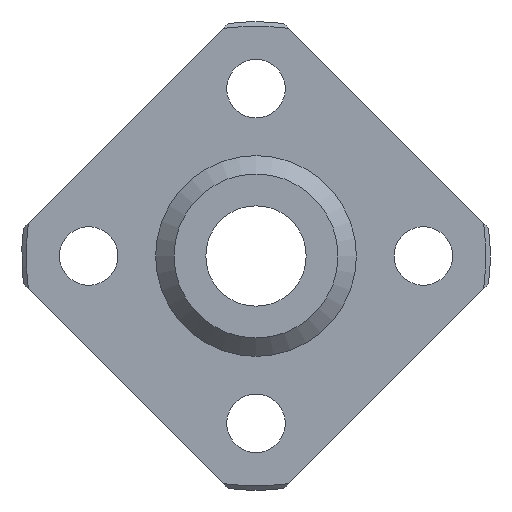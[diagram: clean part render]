
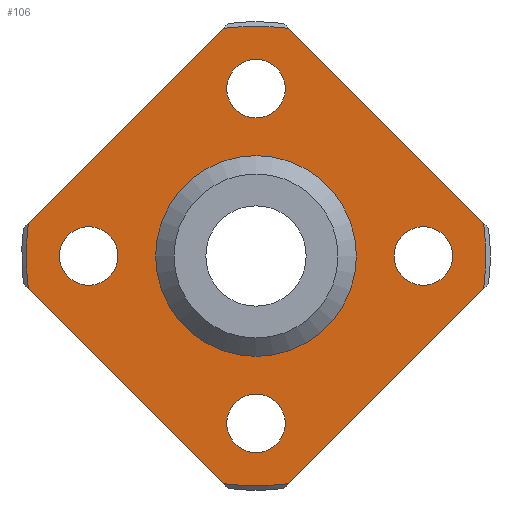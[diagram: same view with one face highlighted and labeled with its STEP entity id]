
A CAD part, left-side view. The second image highlights one B-rep face of the part: STEP entity #106.
In plain terms, the highlighted planar face has unit normal (-1, 0, 0).
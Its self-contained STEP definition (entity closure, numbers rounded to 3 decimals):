
#106=ADVANCED_FACE('',(#190,#191,#192,#193,#194,#195),#196,.F.);
#190=FACE_OUTER_BOUND('',#293,.T.);
#191=FACE_BOUND('',#294,.T.);
#192=FACE_BOUND('',#295,.T.);
#193=FACE_BOUND('',#296,.T.);
#194=FACE_BOUND('',#297,.T.);
#195=FACE_BOUND('',#298,.T.);
#196=PLANE('',#299);
#293=EDGE_LOOP('',(#522,#523,#524,#525,#526,#527,#528,#529));
#294=EDGE_LOOP('',(#530));
#295=EDGE_LOOP('',(#531));
#296=EDGE_LOOP('',(#532));
#297=EDGE_LOOP('',(#533));
#298=EDGE_LOOP('',(#534));
#299=AXIS2_PLACEMENT_3D('',#535,#536,#537);
#522=ORIENTED_EDGE('',*,*,#599,.F.);
#523=ORIENTED_EDGE('',*,*,#624,.T.);
#524=ORIENTED_EDGE('',*,*,#600,.F.);
#525=ORIENTED_EDGE('',*,*,#587,.T.);
#526=ORIENTED_EDGE('',*,*,#603,.F.);
#527=ORIENTED_EDGE('',*,*,#622,.T.);
#528=ORIENTED_EDGE('',*,*,#582,.F.);
#529=ORIENTED_EDGE('',*,*,#576,.T.);
#530=ORIENTED_EDGE('',*,*,#596,.T.);
#531=ORIENTED_EDGE('',*,*,#641,.T.);
#532=ORIENTED_EDGE('',*,*,#637,.T.);
#533=ORIENTED_EDGE('',*,*,#633,.T.);
#534=ORIENTED_EDGE('',*,*,#642,.T.);
#535=CARTESIAN_POINT('',(-8.0,6.0,0.0));
#536=DIRECTION('',(1.0,0.0,0.0));
#537=DIRECTION('',(0.0,0.0,-1.0));
#576=EDGE_CURVE('',#651,#649,#652,.T.);
#582=EDGE_CURVE('',#651,#662,#663,.T.);
#587=EDGE_CURVE('',#672,#670,#673,.T.);
#596=EDGE_CURVE('',#689,#689,#690,.T.);
#599=EDGE_CURVE('',#693,#649,#695,.T.);
#600=EDGE_CURVE('',#672,#696,#697,.T.);
#603=EDGE_CURVE('',#701,#670,#702,.T.);
#622=EDGE_CURVE('',#701,#662,#730,.T.);
#624=EDGE_CURVE('',#693,#696,#732,.T.);
#633=EDGE_CURVE('',#748,#748,#749,.T.);
#637=EDGE_CURVE('',#756,#756,#757,.T.);
#641=EDGE_CURVE('',#764,#764,#765,.T.);
#642=EDGE_CURVE('',#766,#766,#767,.T.);
#649=VERTEX_POINT('',#778);
#651=VERTEX_POINT('',#783);
#652=LINE('',#784,#785);
#662=VERTEX_POINT('',#806);
#663=CIRCLE('',#807,13.746);
#670=VERTEX_POINT('',#818);
#672=VERTEX_POINT('',#823);
#673=LINE('',#824,#825);
#689=VERTEX_POINT('',#852);
#690=CIRCLE('',#853,1.75);
#693=VERTEX_POINT('',#856);
#695=CIRCLE('',#861,13.746);
#696=VERTEX_POINT('',#862);
#697=CIRCLE('',#863,13.746);
#701=VERTEX_POINT('',#870);
#702=CIRCLE('',#871,13.746);
#730=LINE('',#918,#919);
#732=LINE('',#922,#923);
#748=VERTEX_POINT('',#940);
#749=CIRCLE('',#941,1.75);
#756=VERTEX_POINT('',#948);
#757=CIRCLE('',#949,1.75);
#764=VERTEX_POINT('',#956);
#765=CIRCLE('',#957,1.75);
#766=VERTEX_POINT('',#958);
#767=CIRCLE('',#959,6.0);
#778=CARTESIAN_POINT('',(-8.0,-1.949,13.607));
#783=CARTESIAN_POINT('',(-8.0,-13.607,1.949));
#784=CARTESIAN_POINT('',(-8.0,-4.778,10.778));
#785=VECTOR('',#967,1.0);
#806=CARTESIAN_POINT('',(-8.0,-13.607,-1.949));
#807=AXIS2_PLACEMENT_3D('',#970,#971,#972);
#818=CARTESIAN_POINT('',(-8.0,1.949,-13.607));
#823=CARTESIAN_POINT('',(-8.0,13.607,-1.949));
#824=CARTESIAN_POINT('',(-8.0,10.778,-4.778));
#825=VECTOR('',#977,1.0);
#852=CARTESIAN_POINT('',(-8.0,-10.0,-1.75));
#853=AXIS2_PLACEMENT_3D('',#989,#990,#991);
#856=CARTESIAN_POINT('',(-8.0,1.949,13.607));
#861=AXIS2_PLACEMENT_3D('',#995,#996,#997);
#862=CARTESIAN_POINT('',(-8.0,13.607,1.949));
#863=AXIS2_PLACEMENT_3D('',#998,#999,#1000);
#870=CARTESIAN_POINT('',(-8.0,-1.949,-13.607));
#871=AXIS2_PLACEMENT_3D('',#1004,#1005,#1006);
#918=CARTESIAN_POINT('',(-8.0,-4.778,-10.778));
#919=VECTOR('',#1038,1.0);
#922=CARTESIAN_POINT('',(-8.0,10.778,4.778));
#923=VECTOR('',#1040,1.0);
#940=CARTESIAN_POINT('',(-8.0,0.0,8.25));
#941=AXIS2_PLACEMENT_3D('',#1063,#1064,#1065);
#948=CARTESIAN_POINT('',(-8.0,10.0,-1.75));
#949=AXIS2_PLACEMENT_3D('',#1075,#1076,#1077);
#956=CARTESIAN_POINT('',(-8.0,0.0,-11.75));
#957=AXIS2_PLACEMENT_3D('',#1087,#1088,#1089);
#958=CARTESIAN_POINT('',(-8.0,0.,-6.0));
#959=AXIS2_PLACEMENT_3D('',#1090,#1091,#1092);
#967=DIRECTION('',(0.0,0.707,0.707));
#970=CARTESIAN_POINT('',(-8.0,0.0,0.0));
#971=DIRECTION('',(1.0,0.0,0.0));
#972=DIRECTION('',(0.0,0.0,-1.0));
#977=DIRECTION('',(0.0,-0.707,-0.707));
#989=CARTESIAN_POINT('',(-8.0,-10.0,0.0));
#990=DIRECTION('',(1.0,0.0,0.0));
#991=DIRECTION('',(0.0,0.0,-1.0));
#995=CARTESIAN_POINT('',(-8.0,0.0,0.0));
#996=DIRECTION('',(1.0,0.0,0.0));
#997=DIRECTION('',(0.0,0.0,-1.0));
#998=CARTESIAN_POINT('',(-8.0,0.0,0.0));
#999=DIRECTION('',(1.0,0.0,0.0));
#1000=DIRECTION('',(0.0,0.0,-1.0));
#1004=CARTESIAN_POINT('',(-8.0,0.0,0.0));
#1005=DIRECTION('',(1.0,0.0,0.0));
#1006=DIRECTION('',(0.0,0.0,-1.0));
#1038=DIRECTION('',(0.0,-0.707,0.707));
#1040=DIRECTION('',(0.0,0.707,-0.707));
#1063=CARTESIAN_POINT('',(-8.0,0.0,10.0));
#1064=DIRECTION('',(1.0,0.0,0.0));
#1065=DIRECTION('',(0.0,0.0,-1.0));
#1075=CARTESIAN_POINT('',(-8.0,10.0,0.));
#1076=DIRECTION('',(1.0,0.0,0.0));
#1077=DIRECTION('',(0.0,0.0,-1.0));
#1087=CARTESIAN_POINT('',(-8.0,0.0,-10.0));
#1088=DIRECTION('',(1.0,0.0,0.0));
#1089=DIRECTION('',(0.0,0.0,-1.0));
#1090=CARTESIAN_POINT('',(-8.0,0.,0.));
#1091=DIRECTION('',(1.0,0.0,0.0));
#1092=DIRECTION('',(0.0,0.0,-1.0));
